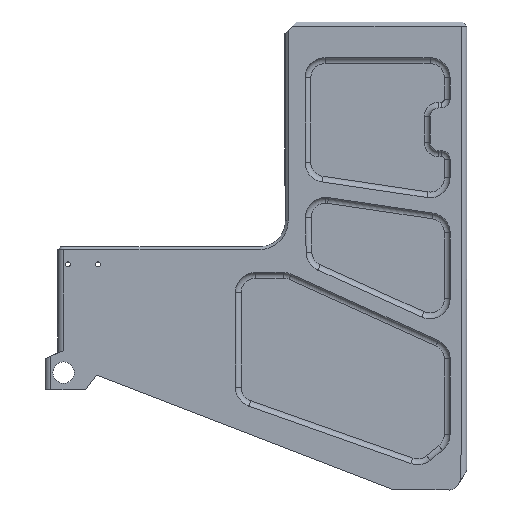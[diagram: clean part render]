
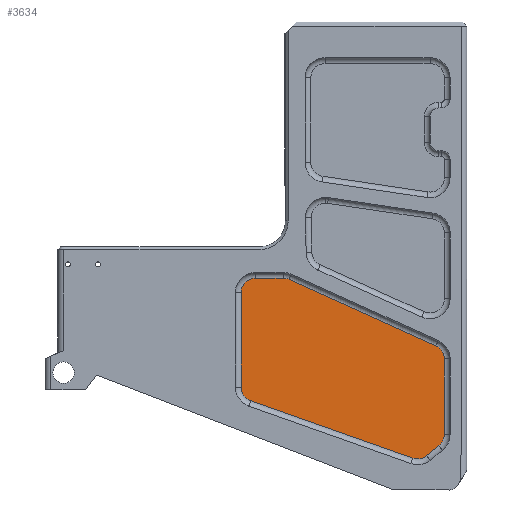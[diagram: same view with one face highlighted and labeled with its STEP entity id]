
A CAD part, left-side view. The second image highlights one B-rep face of the part: STEP entity #3634.
In plain terms, the highlighted planar face has unit normal (-1, 0, 0).
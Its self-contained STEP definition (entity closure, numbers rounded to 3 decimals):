
#3525=CARTESIAN_POINT('',(-9.,0.,0.));
#3526=DIRECTION('',(-1.,0.,0.));
#3527=DIRECTION('',(0.,1.,0.));
#3528=AXIS2_PLACEMENT_3D('',#3525,#3526,#3527);
#3529=PLANE('',#3528);
#3530=CARTESIAN_POINT('',(-9.,684.668,-139.765));
#3531=VERTEX_POINT('',#3530);
#3532=CARTESIAN_POINT('',(-9.,628.002,-159.816));
#3533=VERTEX_POINT('',#3532);
#3534=CARTESIAN_POINT('',(-9.,684.668,-139.765));
#3535=DIRECTION('',(0.,-0.943,-0.334));
#3536=VECTOR('',#3535,60.109);
#3537=LINE('',#3534,#3536);
#3538=EDGE_CURVE('',#3531,#3533,#3537,.T.);
#3539=ORIENTED_EDGE('',*,*,#3538,.T.);
#3540=CARTESIAN_POINT('',(-9.,623.21,-159.007));
#3541=VERTEX_POINT('',#3540);
#3542=CARTESIAN_POINT('',(-9.,626.334,-155.103));
#3543=DIRECTION('',(-1.,0.,0.));
#3544=DIRECTION('',(0.,0.,1.));
#3545=AXIS2_PLACEMENT_3D('',#3542,#3543,#3544);
#3546=CIRCLE('',#3545,5.);
#3547=EDGE_CURVE('',#3533,#3541,#3546,.T.);
#3548=ORIENTED_EDGE('',*,*,#3547,.T.);
#3549=CARTESIAN_POINT('',(-9.,618.877,-155.54));
#3550=VERTEX_POINT('',#3549);
#3551=CARTESIAN_POINT('',(-9.,623.21,-159.007));
#3552=DIRECTION('',(0.,-0.781,0.625));
#3553=VECTOR('',#3552,5.55);
#3554=LINE('',#3551,#3553);
#3555=EDGE_CURVE('',#3541,#3550,#3554,.T.);
#3556=ORIENTED_EDGE('',*,*,#3555,.T.);
#3557=CARTESIAN_POINT('',(-9.,617.,-151.636));
#3558=VERTEX_POINT('',#3557);
#3559=CARTESIAN_POINT('',(-9.,622.,-151.636));
#3560=DIRECTION('',(-1.,0.,0.));
#3561=DIRECTION('',(0.,0.,1.));
#3562=AXIS2_PLACEMENT_3D('',#3559,#3560,#3561);
#3563=CIRCLE('',#3562,5.);
#3564=EDGE_CURVE('',#3550,#3558,#3563,.T.);
#3565=ORIENTED_EDGE('',*,*,#3564,.T.);
#3566=CARTESIAN_POINT('',(-9.,617.,-125.153));
#3567=VERTEX_POINT('',#3566);
#3568=CARTESIAN_POINT('',(-9.,617.,-151.636));
#3569=DIRECTION('',(-0.,-0.,1.));
#3570=VECTOR('',#3569,26.483);
#3571=LINE('',#3568,#3570);
#3572=EDGE_CURVE('',#3558,#3567,#3571,.T.);
#3573=ORIENTED_EDGE('',*,*,#3572,.T.);
#3574=CARTESIAN_POINT('',(-9.,619.943,-120.595));
#3575=VERTEX_POINT('',#3574);
#3576=CARTESIAN_POINT('',(-9.,622.,-125.153));
#3577=DIRECTION('',(-1.,0.,0.));
#3578=DIRECTION('',(0.,0.,1.));
#3579=AXIS2_PLACEMENT_3D('',#3576,#3577,#3578);
#3580=CIRCLE('',#3579,5.);
#3581=EDGE_CURVE('',#3567,#3575,#3580,.T.);
#3582=ORIENTED_EDGE('',*,*,#3581,.T.);
#3583=CARTESIAN_POINT('',(-9.,671.234,-97.443));
#3584=VERTEX_POINT('',#3583);
#3585=CARTESIAN_POINT('',(-9.,619.943,-120.595));
#3586=DIRECTION('',(0.,0.911,0.411));
#3587=VECTOR('',#3586,56.275);
#3588=LINE('',#3585,#3587);
#3589=EDGE_CURVE('',#3575,#3584,#3588,.T.);
#3590=ORIENTED_EDGE('',*,*,#3589,.T.);
#3591=CARTESIAN_POINT('',(-9.,673.291,-97.));
#3592=VERTEX_POINT('',#3591);
#3593=CARTESIAN_POINT('',(-9.,673.291,-102.));
#3594=DIRECTION('',(-1.,0.,0.));
#3595=DIRECTION('',(0.,0.,1.));
#3596=AXIS2_PLACEMENT_3D('',#3593,#3594,#3595);
#3597=CIRCLE('',#3596,5.);
#3598=EDGE_CURVE('',#3584,#3592,#3597,.T.);
#3599=ORIENTED_EDGE('',*,*,#3598,.T.);
#3600=CARTESIAN_POINT('',(-9.,683.,-97.));
#3601=VERTEX_POINT('',#3600);
#3602=CARTESIAN_POINT('',(-9.,673.291,-97.));
#3603=DIRECTION('',(0.,1.,0.));
#3604=VECTOR('',#3603,9.709);
#3605=LINE('',#3602,#3604);
#3606=EDGE_CURVE('',#3592,#3601,#3605,.T.);
#3607=ORIENTED_EDGE('',*,*,#3606,.T.);
#3608=CARTESIAN_POINT('',(-9.,688.,-102.));
#3609=VERTEX_POINT('',#3608);
#3610=CARTESIAN_POINT('',(-9.,683.,-102.));
#3611=DIRECTION('',(-1.,0.,0.));
#3612=DIRECTION('',(0.,0.,1.));
#3613=AXIS2_PLACEMENT_3D('',#3610,#3611,#3612);
#3614=CIRCLE('',#3613,5.);
#3615=EDGE_CURVE('',#3601,#3609,#3614,.T.);
#3616=ORIENTED_EDGE('',*,*,#3615,.T.);
#3617=CARTESIAN_POINT('',(-9.,688.,-135.052));
#3618=VERTEX_POINT('',#3617);
#3619=CARTESIAN_POINT('',(-9.,688.,-102.));
#3620=DIRECTION('',(0.,0.,-1.));
#3621=VECTOR('',#3620,33.052);
#3622=LINE('',#3619,#3621);
#3623=EDGE_CURVE('',#3609,#3618,#3622,.T.);
#3624=ORIENTED_EDGE('',*,*,#3623,.T.);
#3625=CARTESIAN_POINT('',(-9.,683.,-135.052));
#3626=DIRECTION('',(-1.,0.,0.));
#3627=DIRECTION('',(0.,0.,1.));
#3628=AXIS2_PLACEMENT_3D('',#3625,#3626,#3627);
#3629=CIRCLE('',#3628,5.);
#3630=EDGE_CURVE('',#3618,#3531,#3629,.T.);
#3631=ORIENTED_EDGE('',*,*,#3630,.T.);
#3632=EDGE_LOOP('',(#3539,#3548,#3556,#3565,#3573,#3582,#3590,#3599,#3607,#3616,#3624,#3631));
#3633=FACE_BOUND('',#3632,.T.);
#3634=ADVANCED_FACE('',(#3633),#3529,.T.);
